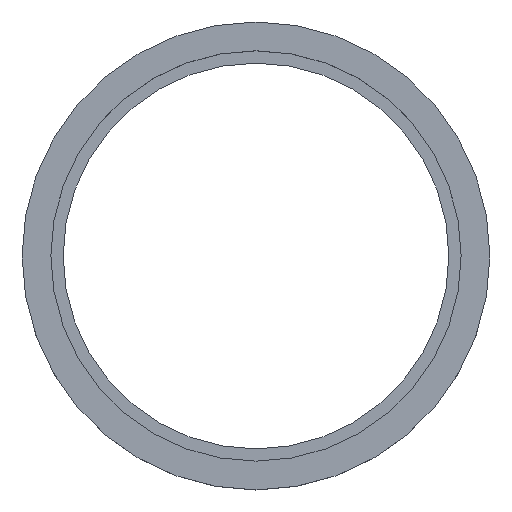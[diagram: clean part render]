
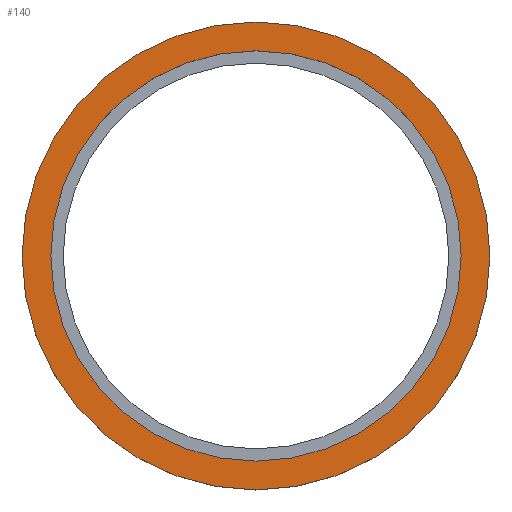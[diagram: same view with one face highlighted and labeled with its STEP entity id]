
A CAD part, top view. The second image highlights one B-rep face of the part: STEP entity #140.
In plain terms, the highlighted planar face has unit normal (0, 0, 1).
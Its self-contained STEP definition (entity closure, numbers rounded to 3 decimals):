
#24 = VERTEX_POINT('',#25);
#25 = CARTESIAN_POINT('',(28.2,0.,6.4));
#32 = CYLINDRICAL_SURFACE('',#33,28.2);
#33 = AXIS2_PLACEMENT_3D('',#34,#35,#36);
#34 = CARTESIAN_POINT('',(0.,0.,0.));
#35 = DIRECTION('',(-0.,-0.,-1.));
#36 = DIRECTION('',(1.,0.,0.));
#51 = EDGE_CURVE('',#24,#24,#52,.T.);
#52 = SURFACE_CURVE('',#53,(#58,#65),.PCURVE_S1.);
#53 = CIRCLE('',#54,28.2);
#54 = AXIS2_PLACEMENT_3D('',#55,#56,#57);
#55 = CARTESIAN_POINT('',(0.,0.,6.4));
#56 = DIRECTION('',(0.,0.,1.));
#57 = DIRECTION('',(1.,0.,0.));
#58 = PCURVE('',#32,#59);
#59 = DEFINITIONAL_REPRESENTATION('',(#60),#64);
#60 = LINE('',#61,#62);
#61 = CARTESIAN_POINT('',(-0.,-6.4));
#62 = VECTOR('',#63,1.);
#63 = DIRECTION('',(-1.,0.));
#64 = ( GEOMETRIC_REPRESENTATION_CONTEXT(2) 
PARAMETRIC_REPRESENTATION_CONTEXT() REPRESENTATION_CONTEXT('2D SPACE',''
  ) );
#65 = PCURVE('',#66,#71);
#66 = PLANE('',#67);
#67 = AXIS2_PLACEMENT_3D('',#68,#69,#70);
#68 = CARTESIAN_POINT('',(0.,0.,6.4));
#69 = DIRECTION('',(0.,0.,1.));
#70 = DIRECTION('',(1.,0.,-0.));
#71 = DEFINITIONAL_REPRESENTATION('',(#72),#76);
#72 = CIRCLE('',#73,28.2);
#73 = AXIS2_PLACEMENT_2D('',#74,#75);
#74 = CARTESIAN_POINT('',(0.,0.));
#75 = DIRECTION('',(1.,0.));
#76 = ( GEOMETRIC_REPRESENTATION_CONTEXT(2) 
PARAMETRIC_REPRESENTATION_CONTEXT() REPRESENTATION_CONTEXT('2D SPACE',''
  ) );
#140 = ADVANCED_FACE('',(#141,#144),#66,.T.);
#141 = FACE_BOUND('',#142,.T.);
#142 = EDGE_LOOP('',(#143));
#143 = ORIENTED_EDGE('',*,*,#51,.T.);
#144 = FACE_BOUND('',#145,.T.);
#145 = EDGE_LOOP('',(#146));
#146 = ORIENTED_EDGE('',*,*,#147,.T.);
#147 = EDGE_CURVE('',#148,#148,#150,.T.);
#148 = VERTEX_POINT('',#149);
#149 = CARTESIAN_POINT('',(24.73,0.,6.4));
#150 = SURFACE_CURVE('',#151,(#156,#167),.PCURVE_S1.);
#151 = CIRCLE('',#152,24.73);
#152 = AXIS2_PLACEMENT_3D('',#153,#154,#155);
#153 = CARTESIAN_POINT('',(0.,0.,6.4));
#154 = DIRECTION('',(0.,0.,-1.));
#155 = DIRECTION('',(1.,0.,0.));
#156 = PCURVE('',#66,#157);
#157 = DEFINITIONAL_REPRESENTATION('',(#158),#166);
#158 = ( BOUNDED_CURVE() B_SPLINE_CURVE(2,(#159,#160,#161,#162,#163,#164
,#165),.UNSPECIFIED.,.T.,.F.) B_SPLINE_CURVE_WITH_KNOTS((1,2,2,2,2,1),(
    -2.094,0.,2.094,4.189,6.283,
8.378),.UNSPECIFIED.) CURVE() GEOMETRIC_REPRESENTATION_ITEM() 
RATIONAL_B_SPLINE_CURVE((1.,0.5,1.,0.5,1.,0.5,1.)) REPRESENTATION_ITEM(
  '') );
#159 = CARTESIAN_POINT('',(24.73,0.));
#160 = CARTESIAN_POINT('',(24.73,-42.834));
#161 = CARTESIAN_POINT('',(-12.365,-21.417));
#162 = CARTESIAN_POINT('',(-49.46,0.));
#163 = CARTESIAN_POINT('',(-12.365,21.417));
#164 = CARTESIAN_POINT('',(24.73,42.834));
#165 = CARTESIAN_POINT('',(24.73,0.));
#166 = ( GEOMETRIC_REPRESENTATION_CONTEXT(2) 
PARAMETRIC_REPRESENTATION_CONTEXT() REPRESENTATION_CONTEXT('2D SPACE',''
  ) );
#167 = PCURVE('',#168,#173);
#168 = CYLINDRICAL_SURFACE('',#169,24.73);
#169 = AXIS2_PLACEMENT_3D('',#170,#171,#172);
#170 = CARTESIAN_POINT('',(0.,0.,1.6));
#171 = DIRECTION('',(-0.,-0.,-1.));
#172 = DIRECTION('',(1.,0.,0.));
#173 = DEFINITIONAL_REPRESENTATION('',(#174),#178);
#174 = LINE('',#175,#176);
#175 = CARTESIAN_POINT('',(-6.283,-4.8));
#176 = VECTOR('',#177,1.);
#177 = DIRECTION('',(1.,-0.));
#178 = ( GEOMETRIC_REPRESENTATION_CONTEXT(2) 
PARAMETRIC_REPRESENTATION_CONTEXT() REPRESENTATION_CONTEXT('2D SPACE',''
  ) );
